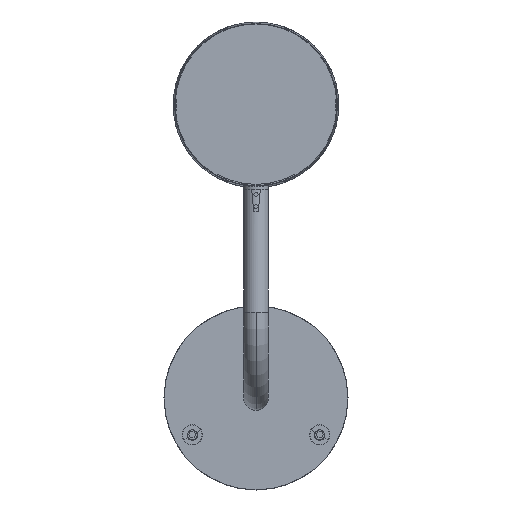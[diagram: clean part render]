
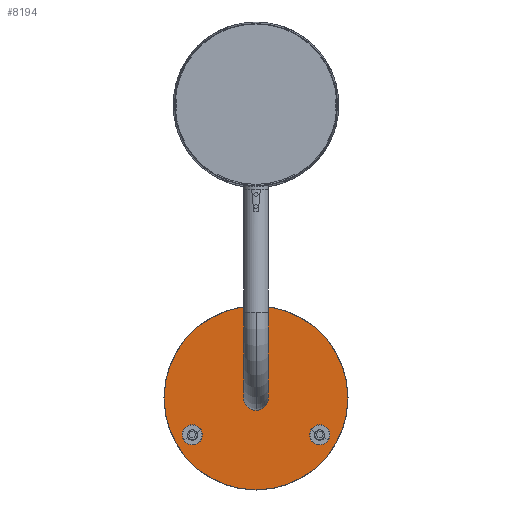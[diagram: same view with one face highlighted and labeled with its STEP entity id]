
A CAD part, front view. The second image highlights one B-rep face of the part: STEP entity #8194.
In plain terms, the highlighted planar face has unit normal (0, -1, 0).
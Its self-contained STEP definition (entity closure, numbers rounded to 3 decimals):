
#7699=CARTESIAN_POINT('',(0.,1200.,-239.));
#7700=DIRECTION('',(0.,-1.,0.));
#7701=DIRECTION('',(0.,0.,-1.));
#7702=AXIS2_PLACEMENT_3D('',#7699,#7700,#7701);
#7704=CARTESIAN_POINT('',(0.,1200.,-239.));
#7705=DIRECTION('',(0.,-1.,0.));
#7706=DIRECTION('',(0.,0.,1.));
#7707=AXIS2_PLACEMENT_3D('',#7704,#7705,#7706);
#7709=CARTESIAN_POINT('',(0.,1200.,-179.));
#7710=DIRECTION('',(0.,-1.,0.));
#7711=DIRECTION('',(0.,0.,1.));
#7712=AXIS2_PLACEMENT_3D('',#7709,#7710,#7711);
#7714=CARTESIAN_POINT('',(0.,1200.,-179.));
#7715=DIRECTION('',(0.,-1.,0.));
#7716=DIRECTION('',(0.,0.,-1.));
#7717=AXIS2_PLACEMENT_3D('',#7714,#7715,#7716);
#7719=CARTESIAN_POINT('',(51.962,1200.,-269.));
#7720=DIRECTION('',(0.,-1.,0.));
#7721=DIRECTION('',(0.866,0.,-0.5));
#7722=AXIS2_PLACEMENT_3D('',#7719,#7720,#7721);
#7724=CARTESIAN_POINT('',(51.962,1200.,-269.));
#7725=DIRECTION('',(0.,-1.,0.));
#7726=DIRECTION('',(-0.866,0.,0.5));
#7727=AXIS2_PLACEMENT_3D('',#7724,#7725,#7726);
#7729=CARTESIAN_POINT('',(-51.962,1200.,-269.));
#7730=DIRECTION('',(0.,-1.,0.));
#7731=DIRECTION('',(-0.866,0.,-0.5));
#7732=AXIS2_PLACEMENT_3D('',#7729,#7730,#7731);
#7734=CARTESIAN_POINT('',(-51.962,1200.,-269.));
#7735=DIRECTION('',(0.,-1.,0.));
#7736=DIRECTION('',(0.866,0.,0.5));
#7737=AXIS2_PLACEMENT_3D('',#7734,#7735,#7736);
#7739=CARTESIAN_POINT('',(0.,1200.,-239.));
#7740=DIRECTION('',(0.,-1.,0.));
#7741=DIRECTION('',(0.,0.,1.));
#7742=AXIS2_PLACEMENT_3D('',#7739,#7740,#7741);
#7744=CARTESIAN_POINT('',(0.,1200.,-239.));
#7745=DIRECTION('',(0.,-1.,0.));
#7746=DIRECTION('',(0.,0.,-1.));
#7747=AXIS2_PLACEMENT_3D('',#7744,#7745,#7746);
#7929=CARTESIAN_POINT('',(0.,1200.,-228.9));
#7930=CARTESIAN_POINT('',(0.,1200.,-249.1));
#7931=VERTEX_POINT('',#7929);
#7932=VERTEX_POINT('',#7930);
#7945=CARTESIAN_POINT('',(0.,1200.,-170.75));
#7946=CARTESIAN_POINT('',(0.,1200.,-187.25));
#7947=VERTEX_POINT('',#7945);
#7948=VERTEX_POINT('',#7946);
#7953=CARTESIAN_POINT('',(59.106,1200.,-273.125));
#7954=CARTESIAN_POINT('',(44.817,1200.,-264.875));
#7955=VERTEX_POINT('',#7953);
#7956=VERTEX_POINT('',#7954);
#7967=CARTESIAN_POINT('',(-59.106,1200.,-273.125));
#7968=CARTESIAN_POINT('',(-44.817,1200.,-264.875));
#7969=VERTEX_POINT('',#7967);
#7970=VERTEX_POINT('',#7968);
#7977=CARTESIAN_POINT('',(0.,1200.,-164.1));
#7978=CARTESIAN_POINT('',(0.,1200.,-313.9));
#7979=VERTEX_POINT('',#7977);
#7980=VERTEX_POINT('',#7978);
#8159=CARTESIAN_POINT('',(0.,1200.,-69.));
#8160=DIRECTION('',(0.,1.,0.));
#8161=DIRECTION('',(0.,0.,1.));
#8162=AXIS2_PLACEMENT_3D('',#8159,#8160,#8161);
#8163=PLANE('',#8162);
#8165=ORIENTED_EDGE('',*,*,#8164,.F.);
#8167=ORIENTED_EDGE('',*,*,#8166,.F.);
#8168=EDGE_LOOP('',(#8165,#8167));
#8169=FACE_OUTER_BOUND('',#8168,.F.);
#8171=ORIENTED_EDGE('',*,*,#8170,.T.);
#8173=ORIENTED_EDGE('',*,*,#8172,.T.);
#8174=EDGE_LOOP('',(#8171,#8173));
#8175=FACE_BOUND('',#8174,.F.);
#8177=ORIENTED_EDGE('',*,*,#8176,.T.);
#8179=ORIENTED_EDGE('',*,*,#8178,.T.);
#8180=EDGE_LOOP('',(#8177,#8179));
#8181=FACE_BOUND('',#8180,.F.);
#8183=ORIENTED_EDGE('',*,*,#8182,.T.);
#8185=ORIENTED_EDGE('',*,*,#8184,.T.);
#8186=EDGE_LOOP('',(#8183,#8185));
#8187=FACE_BOUND('',#8186,.F.);
#8189=ORIENTED_EDGE('',*,*,#8188,.T.);
#8191=ORIENTED_EDGE('',*,*,#8190,.T.);
#8192=EDGE_LOOP('',(#8189,#8191));
#8193=FACE_BOUND('',#8192,.F.);
#8194=ADVANCED_FACE('',(#8169,#8175,#8181,#8187,#8193),#8163,.F.);
#7703=CIRCLE('',#7702,10.1);
#7708=CIRCLE('',#7707,10.1);
#7713=CIRCLE('',#7712,8.25);
#7718=CIRCLE('',#7717,8.25);
#7723=CIRCLE('',#7722,8.25);
#7728=CIRCLE('',#7727,8.25);
#7733=CIRCLE('',#7732,8.25);
#7738=CIRCLE('',#7737,8.25);
#7743=CIRCLE('',#7742,74.9);
#7748=CIRCLE('',#7747,74.9);
#8164=EDGE_CURVE('',#7979,#7980,#7743,.T.);
#8166=EDGE_CURVE('',#7980,#7979,#7748,.T.);
#8170=EDGE_CURVE('',#7947,#7948,#7713,.T.);
#8172=EDGE_CURVE('',#7948,#7947,#7718,.T.);
#8176=EDGE_CURVE('',#7955,#7956,#7723,.T.);
#8178=EDGE_CURVE('',#7956,#7955,#7728,.T.);
#8182=EDGE_CURVE('',#7969,#7970,#7733,.T.);
#8184=EDGE_CURVE('',#7970,#7969,#7738,.T.);
#8188=EDGE_CURVE('',#7932,#7931,#7703,.T.);
#8190=EDGE_CURVE('',#7931,#7932,#7708,.T.);
